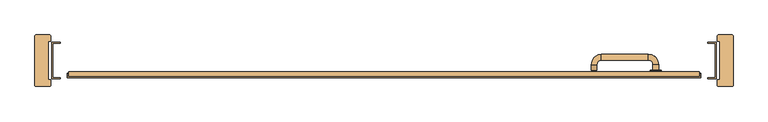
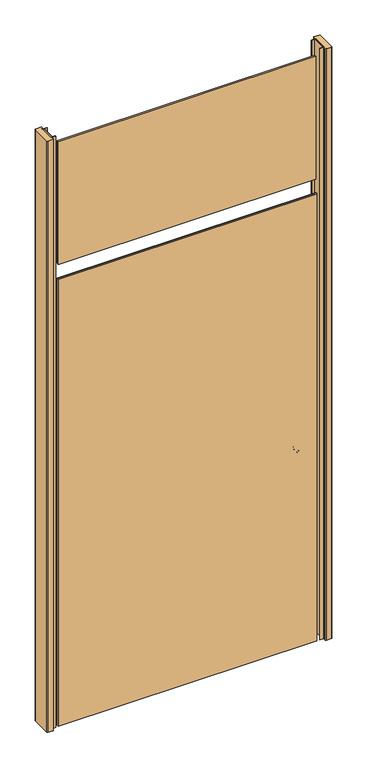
"""IFC4 building model written with IfcOpenShell, lengths in millimetres: door geometry, GLASSLINE_GLASDÖRR I TRAKARM : GLASSLINE_GLASDÖRR I TRAKARM."""

from ifc_helpers import new_model, si_unit, point, frame, frame_2d, origin, origin_with_axes, place, context, project, spatial, polyline, circle_curve, ellipse_curve, trimmed, segment, composite_curve, outline, extrude, source, transform, mapped, element, save
from ifc_brep_helpers import plane_surface, cylinder_surface, revolved_surface, advanced_brep


def door_2dd58c00(model_context):
    return source(origin(), model_context, "Body", "SolidModel", [
        extrude(outline(composite_curve([segment(trimmed(circle_curve(frame_2d((621.0, 90.0)), 2.0), [point((621.0, 92.0))], [point((623.0, 90.0))], False, "CARTESIAN"), True, "CONTINUOUS"), segment(polyline([(623.0, 90.0), (623.0, 2.0)]), True, "CONTINUOUS"), segment(trimmed(circle_curve(frame_2d((621.0, 2.0)), 2.0), [point((623.0, 2.0))], [point((621.0, 0.0))], False, "CARTESIAN"), True, "CONTINUOUS"), segment(polyline([(621.0, 0.0), (597.0, 0.0)]), True, "CONTINUOUS"), segment(trimmed(circle_curve(frame_2d((597.0, 2.0)), 2.0), [point((597.0, 0.0))], [point((595.0, 2.0))], False, "CARTESIAN"), True, "CONTINUOUS"), segment(polyline([(595.0, 2.0), (595.0, 12.0), (599.0, 12.0), (599.0, 80.6), (595.0, 80.6), (595.0, 90.0)]), True, "CONTINUOUS"), segment(trimmed(circle_curve(frame_2d((597.0, 90.0)), 2.0), [point((595.0, 90.0))], [point((597.0, 92.0))], False, "CARTESIAN"), True, "CONTINUOUS"), segment(polyline([(597.0, 92.0), (621.0, 92.0)]), True, "CONTINUOUS")], self_intersect=False)), origin_with_axes(), (0.0, 0.0, 1.0), 2735.0),
        extrude(outline(polyline([(591.0, 76.8), (578.0, 76.8), (578.0, 78.8), (593.0, 78.8), (593.0, 13.8), (578.0, 13.8), (578.0, 15.8), (591.0, 15.8), (591.0, 76.8)])), origin_with_axes(), (0.0, 0.0, 1.0), 2735.0),
        extrude(outline(composite_curve([segment(polyline([(-621.0, 92.0), (-597.0, 92.0)]), True, "CONTINUOUS"), segment(trimmed(circle_curve(frame_2d((-597.0, 90.0)), 2.0), [point((-597.0, 92.0))], [point((-595.0, 90.0))], False, "CARTESIAN"), True, "CONTINUOUS"), segment(polyline([(-595.0, 90.0), (-595.0, 80.6), (-599.0, 80.6), (-599.0, 12.0), (-595.0, 12.0), (-595.0, 2.0)]), True, "CONTINUOUS"), segment(trimmed(circle_curve(frame_2d((-597.0, 2.0)), 2.0), [point((-595.0, 2.0))], [point((-597.0, 0.0))], False, "CARTESIAN"), True, "CONTINUOUS"), segment(polyline([(-597.0, 0.0), (-621.0, 0.0)]), True, "CONTINUOUS"), segment(trimmed(circle_curve(frame_2d((-621.0, 2.0)), 2.0), [point((-621.0, 0.0))], [point((-623.0, 2.0))], False, "CARTESIAN"), True, "CONTINUOUS"), segment(polyline([(-623.0, 2.0), (-623.0, 90.0)]), True, "CONTINUOUS"), segment(trimmed(circle_curve(frame_2d((-621.0, 90.0)), 2.0), [point((-623.0, 90.0))], [point((-621.0, 92.0))], False, "CARTESIAN"), True, "CONTINUOUS")], self_intersect=False)), origin_with_axes(), (0.0, 0.0, 1.0), 2735.0),
        extrude(outline(polyline([(-591.0, 76.8), (-591.0, 15.8), (-578.0, 15.8), (-578.0, 13.8), (-593.0, 13.8), (-593.0, 78.8), (-578.0, 78.8), (-578.0, 76.8), (-591.0, 76.8)])), origin_with_axes(), (0.0, 0.0, 1.0), 2735.0),
        extrude(outline(polyline([(563.0, 26.5), (563.0, 18.5), (-563.0, 18.5), (-563.0, 26.5), (563.0, 26.5)])), frame((0.0, 0.0, 2133.5), z_axis=(0.0, 0.0, 1.0), x_axis=(1.0, 0.0, 0.0)), (0.0, 0.0, 1.0), 568.0),
        extrude(outline(composite_curve([segment(polyline([(16.0, 0.0), (16.0, 2066.0)]), True, "CONTINUOUS"), segment(trimmed(circle_curve(frame_2d((18.0, 2066.0)), 2.0), [point((16.0, 2066.0))], [point((18.0, 2068.0))], False, "CARTESIAN"), True, "CONTINUOUS"), segment(polyline([(18.0, 2068.0), (22.0, 2068.0)]), True, "CONTINUOUS"), segment(trimmed(circle_curve(frame_2d((22.0, 2066.0)), 2.0), [point((22.0, 2068.0))], [point((24.0, 2066.0))], False, "CARTESIAN"), True, "CONTINUOUS"), segment(polyline([(24.0, 2066.0), (24.0, 0.0), (16.0, 0.0)]), True, "CONTINUOUS")], self_intersect=False)), frame((-565.0, 0.0, 0.0), z_axis=(1.0, 0.0, 0.0), x_axis=(0.0, 1.0, 0.0)), (0.0, 0.0, 1.0), 1130.0),
        extrude(outline(composite_curve([segment(trimmed(circle_curve(frame_2d((900.0, 485.0)), 10.0), [point((900.0, 475.0))], [point((900.0, 495.0))], False, "CARTESIAN"), True, "CONTINUOUS"), segment(trimmed(circle_curve(frame_2d((900.0, 485.0)), 10.0), [point((900.0, 495.0))], [point((900.0, 475.0))], False, "CARTESIAN"), True, "CONTINUOUS")], self_intersect=False)), frame((0.0, 28.0, 0.0), z_axis=(0.0, 1.0, 0.0), x_axis=(0.0, 0.0, 1.0)), (0.0, 0.0, 1.0), 1.0),
        extrude(outline(composite_curve([segment(trimmed(circle_curve(frame_2d((980.0, 485.0)), 10.0), [point((980.0, 495.0))], [point((980.0, 475.0))], False, "CARTESIAN"), True, "CONTINUOUS"), segment(trimmed(circle_curve(frame_2d((980.0, 485.0)), 10.0), [point((980.0, 475.0))], [point((980.0, 495.0))], False, "CARTESIAN"), True, "CONTINUOUS")], self_intersect=False), holes=[composite_curve([segment(trimmed(circle_curve(frame_2d((981.75, 485.0)), 1.5), [point((980.631966, 484.0))], [point((980.631966, 486.0))], True, "CARTESIAN"), True, "CONTINUOUS"), segment(polyline([(980.631966, 486.0), (976.75, 486.0), (976.75, 484.0), (980.631966, 484.0)]), True, "CONTINUOUS")], self_intersect=False)]), frame((0.0, 28.0, 0.0), z_axis=(0.0, 1.0, 0.0), x_axis=(0.0, 0.0, 1.0)), (0.0, 0.0, 1.0), 1.0),
        advanced_brep(
        [(490.0, 18.9038294, 900.0), (480.0, 18.9038294, 900.0), (370.0, 28.9038294, 900.0), (380.0, 28.9038294, 900.0), (490.0, 39.4038294, 900.0), (480.0, 39.4038294, 900.0), (472.0, 47.4038294, 900.0), (472.0, 57.4038294, 900.0), (388.0, 57.4038294, 900.0), (388.0, 47.4038294, 900.0), (380.0, 39.4038294, 900.0), (370.0, 39.4038294, 900.0)],
        [
            (0, 1, circle_curve(frame((485.0, 18.9038294, 900.0), z_axis=(0.0, -1.0, 0.0), x_axis=(-1.0, 0.0, 0.0)), 5.0)),
            (1, 0, circle_curve(frame((485.0, 18.9038294, 900.0), z_axis=(0.0, -1.0, 0.0), x_axis=(-1.0, 0.0, 0.0)), 5.0)),
            (2, 3, circle_curve(frame((375.0, 28.9038294, 900.0), z_axis=(0.0, -1.0, 0.0), x_axis=(1.0, 0.0, 0.0)), 5.0)),
            (3, 2, circle_curve(frame((375.0, 28.9038294, 900.0), z_axis=(0.0, -1.0, 0.0), x_axis=(1.0, 0.0, 0.0)), 5.0)),
            (0, 4),
            (4, 5, circle_curve(frame((485.0, 39.4038294, 900.0), z_axis=(0.0, -1.0, 0.0), x_axis=(-1.0, 0.0, 0.0)), 5.0)),
            (5, 1),
            (5, 4, circle_curve(frame((485.0, 39.4038294, 900.0), z_axis=(0.0, -1.0, 0.0), x_axis=(-1.0, 0.0, 0.0)), 5.0)),
            (6, 5, circle_curve(frame((472.0, 39.4038294, 900.0), z_axis=(0.0, 0.0, -1.0), x_axis=(1.0, 0.0, 0.0)), 8.0)),
            (4, 7, circle_curve(frame((472.0, 39.4038294, 900.0), z_axis=(0.0, 0.0, 1.0), x_axis=(1.0, 0.0, 0.0)), 18.0)),
            (7, 6, circle_curve(frame((472.0, 52.4038294, 900.0), z_axis=(1.0, 0.0, 0.0), x_axis=(0.0, -1.0, 0.0)), 5.0)),
            (6, 7, circle_curve(frame((472.0, 52.4038294, 900.0), z_axis=(1.0, 0.0, 0.0), x_axis=(0.0, -1.0, 0.0)), 5.0)),
            (7, 8),
            (8, 9, circle_curve(frame((388.0, 52.4038294, 900.0), z_axis=(1.0, 0.0, 0.0), x_axis=(0.0, -1.0, 0.0)), 5.0)),
            (9, 6),
            (9, 8, circle_curve(frame((388.0, 52.4038294, 900.0), z_axis=(1.0, 0.0, 0.0), x_axis=(0.0, -1.0, 0.0)), 5.0)),
            (10, 9, circle_curve(frame((388.0, 39.4038294, 900.0), z_axis=(0.0, 0.0, -1.0), x_axis=(0.0, 1.0, 0.0)), 8.0)),
            (8, 11, circle_curve(frame((388.0, 39.4038294, 900.0), z_axis=(0.0, 0.0, 1.0), x_axis=(0.0, 1.0, 0.0)), 18.0)),
            (11, 10, circle_curve(frame((375.0, 39.4038294, 900.0), z_axis=(0.0, 1.0, 0.0), x_axis=(1.0, 0.0, 0.0)), 5.0)),
            (10, 11, circle_curve(frame((375.0, 39.4038294, 900.0), z_axis=(0.0, 1.0, 0.0), x_axis=(1.0, 0.0, 0.0)), 5.0)),
            (11, 2),
            (3, 10),
        ],
        [
            plane_surface(frame((485.0, 18.9038294, 0.0), z_axis=(0.0, -1.0, 0.0), x_axis=(0.0, 0.0, 1.0))),
            plane_surface(frame((375.0, 28.9038294, 0.0), z_axis=(0.0, -1.0, 0.0), x_axis=(0.0, 0.0, 1.0))),
            cylinder_surface(frame((485.0, 18.9038294, 900.0), z_axis=(0.0, -1.0, 0.0), x_axis=(-1.0, 0.0, 0.0)), 5.0),
            revolved_surface(trimmed(ellipse_curve(frame((485.0, 39.4038294, 900.0), z_axis=(0.0, -1.0, 0.0), x_axis=(-1.0, 0.0, 0.0)), 5.0, 5.0), [point((490.0, 39.4038294, 900.0))], [point((480.0, 39.4038294, 900.0))], True, "CARTESIAN"), (472.0, 39.4038294, 0.0), (0.0, 0.0, 1.0)),
            revolved_surface(trimmed(ellipse_curve(frame((485.0, 39.4038294, 900.0), z_axis=(0.0, -1.0, 0.0), x_axis=(-1.0, 0.0, 0.0)), 5.0, 5.0), [point((480.0, 39.4038294, 900.0))], [point((490.0, 39.4038294, 900.0))], True, "CARTESIAN"), (472.0, 39.4038294, 0.0), (0.0, 0.0, 1.0)),
            cylinder_surface(frame((472.0, 52.4038294, 900.0), z_axis=(1.0, 0.0, 0.0), x_axis=(0.0, -1.0, 0.0)), 5.0),
            revolved_surface(trimmed(ellipse_curve(frame((388.0, 52.4038294, 900.0), z_axis=(1.0, 0.0, 0.0), x_axis=(0.0, -1.0, 0.0)), 5.0, 5.0), [point((388.0, 57.4038294, 900.0))], [point((388.0, 47.4038294, 900.0))], True, "CARTESIAN"), (388.0, 39.4038294, 0.0), (0.0, 0.0, 1.0)),
            revolved_surface(trimmed(ellipse_curve(frame((388.0, 52.4038294, 900.0), z_axis=(1.0, 0.0, 0.0), x_axis=(0.0, -1.0, 0.0)), 5.0, 5.0), [point((388.0, 47.4038294, 900.0))], [point((388.0, 57.4038294, 900.0))], True, "CARTESIAN"), (388.0, 39.4038294, 0.0), (0.0, 0.0, 1.0)),
            cylinder_surface(frame((375.0, 39.4038294, 900.0), z_axis=(0.0, 1.0, 0.0), x_axis=(1.0, 0.0, 0.0)), 5.0),
        ],
        [
            (0, [[1, 2]]),
            (1, [[3, 4]]),
            (2, [[-1, 5, 6, 7]]),
            (2, [[-2, -7, 8, -5]]),
            (3, [[9, -6, 10, 11]]),
            (4, [[-10, -8, -9, 12]]),
            (5, [[-11, 13, 14, 15]]),
            (5, [[-12, -15, 16, -13]]),
            (6, [[17, -14, 18, 19]]),
            (7, [[-18, -16, -17, 20]]),
            (8, [[-19, 21, -4, 22]]),
            (8, [[-20, -22, -3, -21]]),
        ],
    ),
    ])


if __name__ == "__main__":
    model = new_model("IFC4")
    model_context = context("Model", 3, world=origin())
    ifc_project = project(units=[si_unit("LENGTHUNIT", "METRE", prefix="MILLI")], contexts=[model_context])
    site = spatial("IfcSite", under=ifc_project)
    building = spatial("IfcBuilding", under=site)
    placement = place(None, origin())
    door_shape = door_2dd58c00(model_context)
    element("IfcDoor", 1, ObjectType="GLASSLINE_GLASDÖRR I TRAKARM : GLASSLINE_GLASDÖRR I TRAKARM", at=placement, inside=building, context=model_context, shape_type="MappedRepresentation", body=[
        mapped(door_shape, transform((0.0, 0.0, 0.0), x_axis=(1.0, 0.0, 0.0), y_axis=(0.0, 1.0, 0.0), z_axis=(0.0, 0.0, 1.0))),
    ])
    save(model, "model.ifc")
